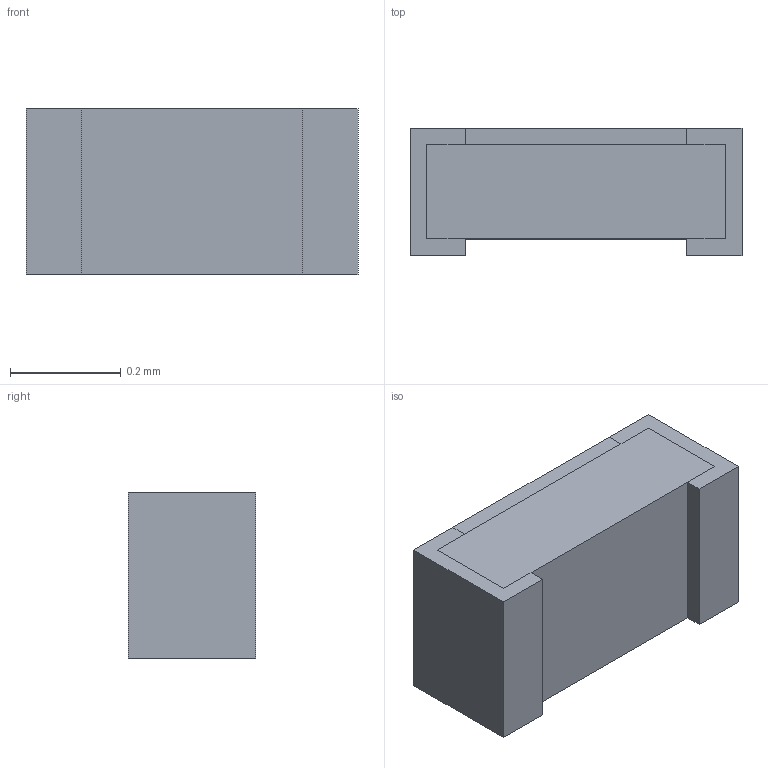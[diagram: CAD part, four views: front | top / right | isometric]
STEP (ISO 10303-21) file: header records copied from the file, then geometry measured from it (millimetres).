
FILE_DESCRIPTION(('FreeCAD Model'),'2;1');
FILE_NAME('Open CASCADE Shape Model','2022-02-08T17:21:59',('Author'),( ''),'Open CASCADE STEP processor 7.5','FreeCAD','Unknown');
FILE_SCHEMA(('AUTOMOTIVE_DESIGN { 1 0 10303 214 1 1 1 1 }'));
Length unit declared in the file: millimetre
Products named in the file (1): Pad002
Bounding box: 0.6 x 0.23 x 0.3 mm (x, y, z)
Volume: 0 mm3; surface area: 0.8 mm2
Topology: 1 solids, 1 shells, 18 faces, 48 edges, 32 vertices
Faces by surface type: plane 18
Entity records: 1320 total; most frequent: CARTESIAN_POINT 195, DIRECTION 182, LINE 144, VECTOR 144, ORIENTED_EDGE 96, PCURVE 96, DEFINITIONAL_REPRESENTATION 96, EDGE_CURVE 48
